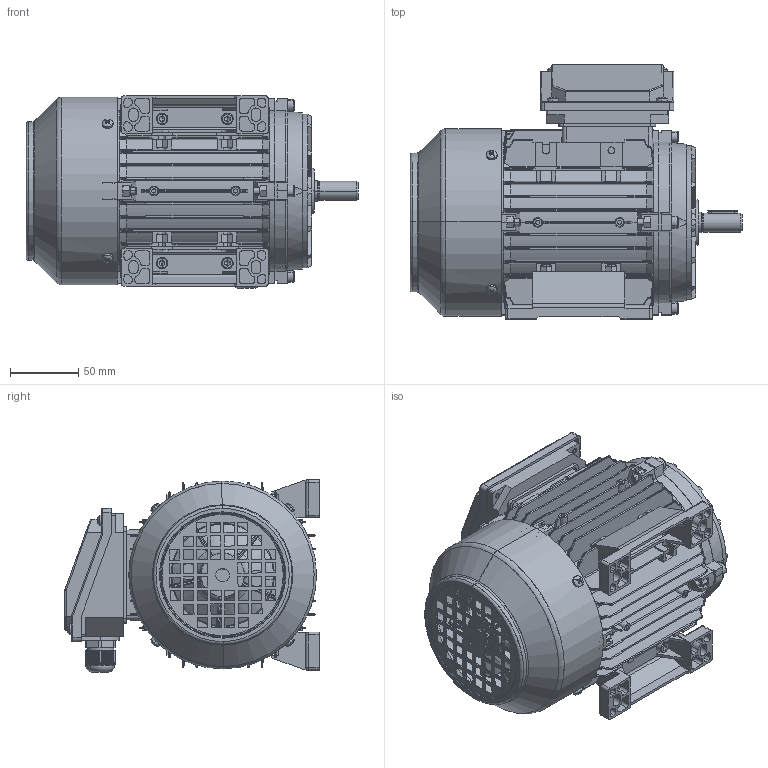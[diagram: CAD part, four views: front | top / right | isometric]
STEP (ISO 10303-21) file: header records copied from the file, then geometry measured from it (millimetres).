
FILE_DESCRIPTION (( 'STEP AP214' ), '1' );
FILE_NAME ('BMT1018.07B603.11.step', '2020-04-23T20:37:55', ( '' ), ( '' ), 'SwSTEP 2.0', 'SolidWorks 2019', '' );
FILE_SCHEMA (( 'AUTOMOTIVE_DESIGN' ));
Length unit declared in the file: millimetre
Products named in the file (1): BMT1018.07B603.11
Bounding box: 244 x 187 x 141.5 mm (x, y, z)
Volume: 626475.9 mm3; surface area: 504024.8 mm2
Topology: 44 solids, 44 shells, 4409 faces, 11502 edges, 7207 vertices
Faces by surface type: plane 2106, cylinder 1168, bspline 560, cone 395, torus 144, sphere 36
Entity records: 162686 total; most frequent: CARTESIAN_POINT 59135, ORIENTED_EDGE 22836, DIRECTION 19800, EDGE_CURVE 11418, VERTEX_POINT 7207, AXIS2_PLACEMENT_3D 6995, VECTOR 5810, LINE 5810
